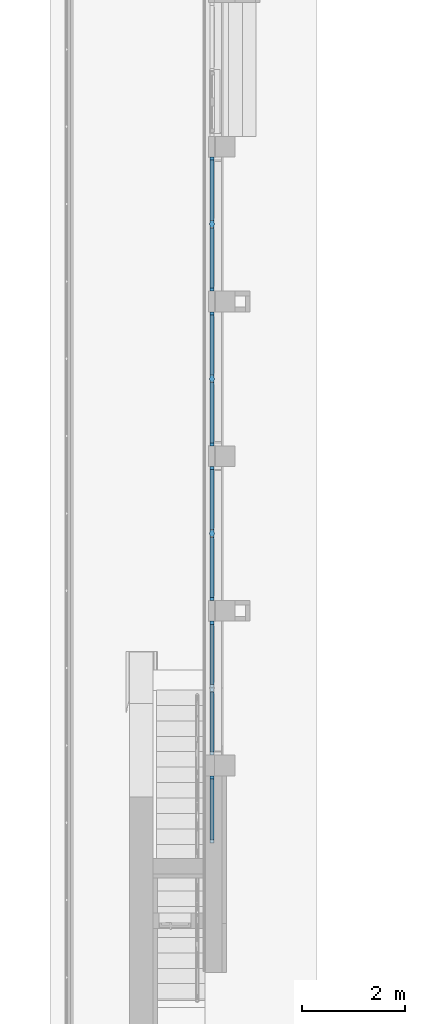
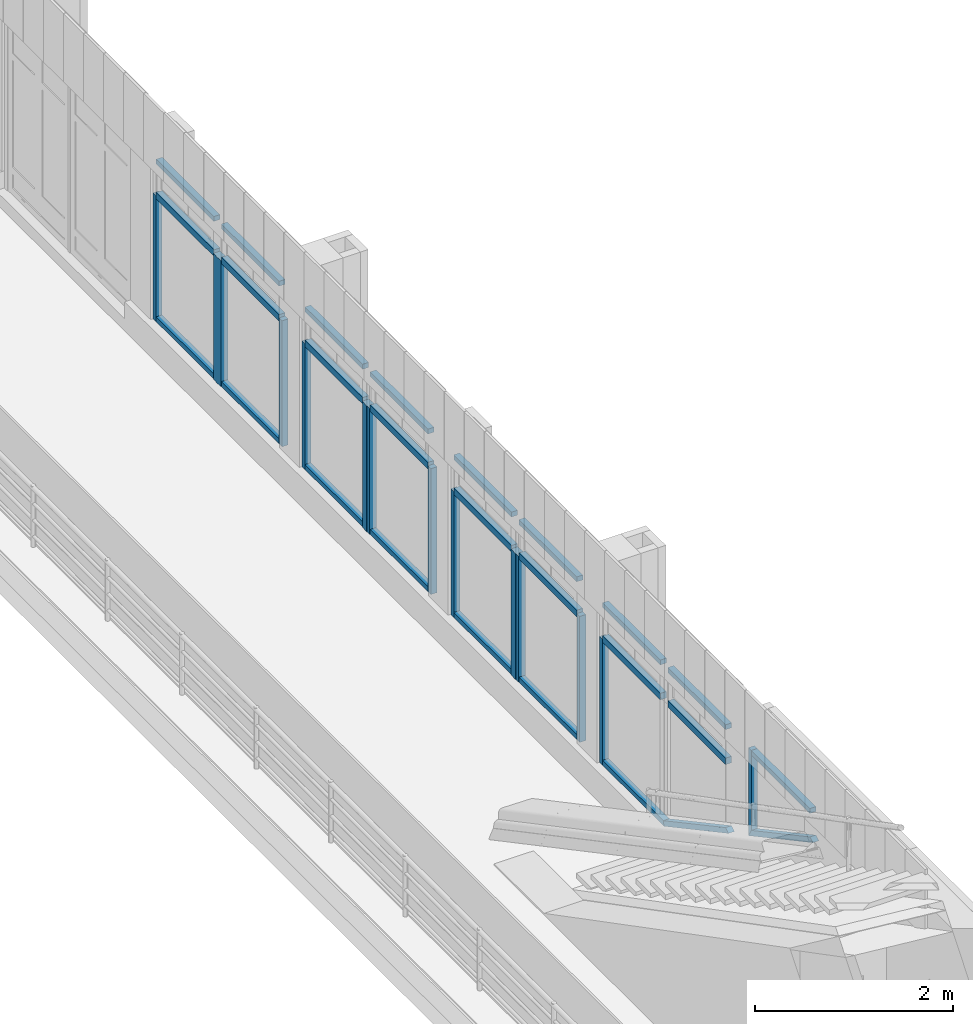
# One storey, part 2 of 16: 37 members, 5 elements without a shape of their own.
"""IFC2X3 building model written with IfcOpenShell, lengths in millimetres."""

from ifc_helpers import new_model, entity, si_unit, converted_unit, derived_unit, direction, frame, frame_2d, origin, place, context, subcontext, project, spatial, polyline, rectangle, outline, extrude, source, transform, mapped, material, type_object, type_shapes, element, aggregate, save


model = new_model("IFC2X3")

# Units and contexts
model_context = context("Model", 3, precision=0.01, world=origin(), true_north=direction((6.123031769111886e-17, 1.0)))
body_context = subcontext(model_context, "Body", "Model", "MODEL_VIEW")
ifc_project = project(units=[si_unit("LENGTHUNIT", "METRE", prefix="MILLI"), si_unit("AREAUNIT", "SQUARE_METRE"), si_unit("VOLUMEUNIT", "CUBIC_METRE"), converted_unit("PLANEANGLEUNIT", "DEGREE", entity("IfcPlaneAngleMeasure", 0.017453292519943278), si_unit("PLANEANGLEUNIT", "RADIAN"), dimensions=[0, 0, 0, 0, 0, 0, 0]), si_unit("MASSUNIT", "GRAM", prefix="KILO"), derived_unit("MASSDENSITYUNIT", [(si_unit("MASSUNIT", "GRAM", prefix="KILO"), 1), (si_unit("LENGTHUNIT", "METRE"), -3)]), derived_unit("IONCONCENTRATIONUNIT", [(si_unit("MASSUNIT", "GRAM", prefix="KILO"), 1), (si_unit("LENGTHUNIT", "METRE"), -3)]), derived_unit("MOMENTOFINERTIAUNIT", [(si_unit("LENGTHUNIT", "METRE"), 4)]), si_unit("TIMEUNIT", "SECOND"), si_unit("FREQUENCYUNIT", "HERTZ"), si_unit("THERMODYNAMICTEMPERATUREUNIT", "DEGREE_CELSIUS"), derived_unit("THERMALTRANSMITTANCEUNIT", [(si_unit("MASSUNIT", "GRAM", prefix="KILO"), 1), (si_unit("THERMODYNAMICTEMPERATUREUNIT", "KELVIN"), -1), (si_unit("TIMEUNIT", "SECOND"), -3)]), derived_unit("THERMALCONDUCTANCEUNIT", [(si_unit("MASSUNIT", "GRAM", prefix="KILO"), 1), (si_unit("THERMODYNAMICTEMPERATUREUNIT", "KELVIN"), -1), (si_unit("TIMEUNIT", "SECOND"), -3), (si_unit("LENGTHUNIT", "METRE"), 1)]), derived_unit("VOLUMETRICFLOWRATEUNIT", [(si_unit("LENGTHUNIT", "METRE", prefix="DECI"), 3), (si_unit("TIMEUNIT", "SECOND"), -1)]), derived_unit("MASSFLOWRATEUNIT", [(si_unit("MASSUNIT", "GRAM", prefix="KILO"), 1), (si_unit("TIMEUNIT", "SECOND"), -1)]), derived_unit("ROTATIONALFREQUENCYUNIT", [(si_unit("TIMEUNIT", "SECOND"), -1)]), si_unit("ELECTRICCURRENTUNIT", "AMPERE"), si_unit("ELECTRICVOLTAGEUNIT", "VOLT"), si_unit("POWERUNIT", "WATT"), si_unit("FORCEUNIT", "NEWTON", prefix="KILO"), si_unit("ILLUMINANCEUNIT", "LUX"), si_unit("LUMINOUSFLUXUNIT", "LUMEN"), si_unit("LUMINOUSINTENSITYUNIT", "CANDELA"), si_unit("ENERGYUNIT", "JOULE"), derived_unit("USERDEFINED", [(si_unit("MASSUNIT", "GRAM", prefix="KILO"), -1), (si_unit("LENGTHUNIT", "METRE"), -2), (si_unit("TIMEUNIT", "SECOND"), 3), (si_unit("LUMINOUSFLUXUNIT", "LUMEN"), 1)]), derived_unit("USERDEFINED", [(si_unit("MASSUNIT", "GRAM", prefix="KILO"), 1), (si_unit("TIMEUNIT", "SECOND"), -3), (si_unit("LENGTHUNIT", "METRE"), 3), (si_unit("ELECTRICCURRENTUNIT", "AMPERE"), -2)]), derived_unit("SOUNDPOWERUNIT", [(si_unit("MASSUNIT", "GRAM", prefix="KILO"), 1), (si_unit("TIMEUNIT", "SECOND"), -3), (si_unit("LENGTHUNIT", "METRE"), 2)]), derived_unit("SOUNDPRESSUREUNIT", [(si_unit("MASSUNIT", "GRAM", prefix="KILO"), 1), (si_unit("LENGTHUNIT", "METRE"), -1), (si_unit("TIMEUNIT", "SECOND"), -2)]), derived_unit("LINEARVELOCITYUNIT", [(si_unit("LENGTHUNIT", "METRE"), 1), (si_unit("TIMEUNIT", "SECOND"), -1)]), si_unit("PRESSUREUNIT", "PASCAL"), derived_unit("USERDEFINED", [(si_unit("MASSUNIT", "GRAM", prefix="KILO"), 1), (si_unit("LENGTHUNIT", "METRE"), -2), (si_unit("TIMEUNIT", "SECOND"), -2)]), derived_unit("LINEARFORCEUNIT", [(si_unit("MASSUNIT", "GRAM", prefix="KILO"), 1), (si_unit("TIMEUNIT", "SECOND"), -2)]), derived_unit("PLANARFORCEUNIT", [(si_unit("MASSUNIT", "GRAM", prefix="KILO"), 1), (si_unit("LENGTHUNIT", "METRE"), -1), (si_unit("TIMEUNIT", "SECOND"), -2)]), derived_unit("SPECIFICHEATCAPACITYUNIT", [(si_unit("THERMODYNAMICTEMPERATUREUNIT", "KELVIN"), -1), (si_unit("LENGTHUNIT", "METRE"), 2), (si_unit("TIMEUNIT", "SECOND"), -2)]), derived_unit("HEATFLUXDENSITYUNIT", [(si_unit("MASSUNIT", "GRAM", prefix="KILO"), 1), (si_unit("TIMEUNIT", "SECOND"), -3)]), derived_unit("HEATINGVALUEUNIT", [(si_unit("LENGTHUNIT", "METRE"), 2), (si_unit("TIMEUNIT", "SECOND"), -2)]), derived_unit("VAPORPERMEABILITYUNIT", [(si_unit("LENGTHUNIT", "METRE"), -1), (si_unit("TIMEUNIT", "SECOND"), 1)]), derived_unit("DYNAMICVISCOSITYUNIT", [(si_unit("MASSUNIT", "GRAM", prefix="KILO"), 1), (si_unit("TIMEUNIT", "SECOND"), -1), (si_unit("LENGTHUNIT", "METRE"), -1)]), derived_unit("THERMALEXPANSIONCOEFFICIENTUNIT", [(si_unit("THERMODYNAMICTEMPERATUREUNIT", "KELVIN"), -1)]), derived_unit("MODULUSOFELASTICITYUNIT", [(si_unit("MASSUNIT", "GRAM", prefix="KILO"), 1), (si_unit("LENGTHUNIT", "METRE"), -1), (si_unit("TIMEUNIT", "SECOND"), -2)]), derived_unit("ISOTHERMALMOISTURECAPACITYUNIT", [(si_unit("MASSUNIT", "GRAM", prefix="KILO"), -1), (si_unit("LENGTHUNIT", "METRE"), 3)]), derived_unit("MOISTUREDIFFUSIVITYUNIT", [(si_unit("TIMEUNIT", "SECOND"), -1), (si_unit("LENGTHUNIT", "METRE"), 2)]), derived_unit("MASSPERLENGTHUNIT", [(si_unit("MASSUNIT", "GRAM", prefix="KILO"), 1), (si_unit("LENGTHUNIT", "METRE"), -1)]), derived_unit("THERMALRESISTANCEUNIT", [(si_unit("MASSUNIT", "GRAM", prefix="KILO"), -1), (si_unit("TIMEUNIT", "SECOND"), 3), (si_unit("THERMODYNAMICTEMPERATUREUNIT", "KELVIN"), 1)]), derived_unit("ACCELERATIONUNIT", [(si_unit("LENGTHUNIT", "METRE"), 1), (si_unit("TIMEUNIT", "SECOND"), -2)]), derived_unit("ANGULARVELOCITYUNIT", [(si_unit("TIMEUNIT", "SECOND"), -1), (si_unit("PLANEANGLEUNIT", "RADIAN"), 1)]), derived_unit("LINEARSTIFFNESSUNIT", [(si_unit("MASSUNIT", "GRAM", prefix="KILO"), 1), (si_unit("TIMEUNIT", "SECOND"), -2)]), derived_unit("WARPINGCONSTANTUNIT", [(si_unit("LENGTHUNIT", "METRE"), 6)]), derived_unit("LINEARMOMENTUNIT", [(si_unit("MASSUNIT", "GRAM", prefix="KILO"), 1), (si_unit("LENGTHUNIT", "METRE"), 1), (si_unit("TIMEUNIT", "SECOND"), -2)]), derived_unit("TORQUEUNIT", [(si_unit("MASSUNIT", "GRAM", prefix="KILO"), 1), (si_unit("LENGTHUNIT", "METRE"), 2), (si_unit("TIMEUNIT", "SECOND"), -2)])], contexts=[model_context])

# Site, building, storey
site_placement = place(None, origin())
site = spatial("IfcSite", under=ifc_project, at=site_placement, Name="Default", CompositionType="ELEMENT")
building_placement = place(site_placement, origin())
building = spatial("IfcBuilding", under=site, at=building_placement, Name="Eesti Rahvusraamatukogu hoone renoveerimise projekteerimistööd", CompositionType="ELEMENT")
storey_placement = place(building_placement, frame((0.0, 0.0, 8250.000000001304)))
storey = spatial("IfcBuildingStorey", under=building, at=storey_placement, Name="3. korrus", CompositionType="ELEMENT", Elevation=8250.000000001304)

# Curtain wall, members
curtain_wall_type_1 = type_object("IfcCurtainWallType", Name="Curtain Wall:A-17", PredefinedType="NOTDEFINED")
curtain_wall_1_placement = place(storey_placement, frame((0.0, 0.0, -8250.000000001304)))
curtain_wall_1 = element("IfcCurtainWall", 1, at=curtain_wall_1_placement, inside=storey, type_object=curtain_wall_type_1, Name="Curtain Wall:A-17", ObjectType="Curtain Wall:A-17")
ifc_material = material(Name="LUMION_dark steel window frames")
member_type_1 = type_object("IfcMemberType", Name="Rectangular Mullion:NEW 80x70mm", PredefinedType="MULLION", material=ifc_material)
shared_shape_1 = source(origin(), body_context, "Body", "SweptSolid", [
    extrude(rectangle(XDim=80.0, YDim=70.0, at=frame_2d((0.0, -3.552713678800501e-15), x_axis=(1.0, 0.0))), frame((0.0, 0.0, -1165.0), z_axis=(0.0, 0.0, 1.0), x_axis=(-1.0, 0.0, 0.0)), (0.0, 0.0, 1.0), 1165.000000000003),
])
type_shapes(member_type_1, [shared_shape_1])
member_1_placement = place(curtain_wall_1_placement, frame((-33635.0, 12650.0, 10400.000000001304), z_axis=(0.0, -1.0, 0.0), x_axis=(0.0, 0.0, 1.0)))
member_1 = element("IfcMember", 2, at=member_1_placement, type_object=member_type_1, material=ifc_material, Name="Rectangular Mullion:NEW 80x70mm", ObjectType="Rectangular Mullion:NEW 80x70mm", context=body_context, shape_type="MappedRepresentation", body=[
    mapped(shared_shape_1, transform((0.0, 0.0, 0.0), scale=1.0)),
])
member_2_placement = place(curtain_wall_1_placement, frame((-33635.0, 13965.0, 10400.000000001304), z_axis=(0.0, -1.0, 0.0), x_axis=(0.0, 0.0, 1.0)))
member_2 = element("IfcMember", 3, at=member_2_placement, type_object=member_type_1, material=ifc_material, Name="Rectangular Mullion:NEW 80x70mm", ObjectType="Rectangular Mullion:NEW 80x70mm", context=body_context, shape_type="MappedRepresentation", body=[
    mapped(shared_shape_1, transform((0.0, 0.0, 0.0), scale=1.0)),
])
member_type_2 = type_object("IfcMemberType", Name="Rectangular Mullion:NEW 60x70mm", PredefinedType="MULLION", material=ifc_material)
shared_shape_2 = source(origin(), body_context, "Body", "SweptSolid", [
    extrude(rectangle(XDim=60.0, YDim=70.0, at=frame_2d((0.0, -3.552713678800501e-15), x_axis=(1.0, 0.0))), frame((-30.0, 0.0, -1550.0), z_axis=(0.0, 0.0, 1.0), x_axis=(-1.0, 0.0, 0.0)), (0.0, 0.0, 1.0), 1550.000000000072),
])
type_shapes(member_type_2, [shared_shape_2])
member_3_placement = place(curtain_wall_1_placement, frame((-33635.0, 15190.0, 10400.000000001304), z_axis=(0.0, 0.0, 1.0), x_axis=(0.0, 1.0, 0.0)))
member_3 = element("IfcMember", 4, at=member_3_placement, type_object=member_type_2, material=ifc_material, Name="Rectangular Mullion:NEW 60x70mm", ObjectType="Rectangular Mullion:NEW 60x70mm", context=body_context, shape_type="MappedRepresentation", body=[
    mapped(shared_shape_2, transform((0.0, 0.0, 0.0), scale=1.0)),
])
member_type_3 = type_object("IfcMemberType", Name="Rectangular Mullion:NEW 60x70mm", PredefinedType="MULLION", material=ifc_material)
shared_shape_3 = source(origin(), body_context, "Body", "SweptSolid", [
    extrude(outline(polyline([(-616.2182362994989, -30.0), (623.7817637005, -30.0), (608.654708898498, 30.0), (-616.2182362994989, 30.0), (-616.2182362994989, -30.0)])), frame((-30.0, -35.0, -616.2182362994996), z_axis=(0.0, 1.0, 0.0), x_axis=(0.0, 0.0, -1.0)), (0.0, 0.0, 1.0), 69.99999999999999),
])
type_shapes(member_type_3, [shared_shape_3])
member_4_placement = place(curtain_wall_1_placement, frame((-33635.0, 15130.0, 8850.000000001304), z_axis=(0.0, 1.0, 0.0), x_axis=(0.0, 0.0, -1.0)))
member_4 = element("IfcMember", 5, at=member_4_placement, type_object=member_type_3, material=ifc_material, Name="Rectangular Mullion:NEW 60x70mm", ObjectType="Rectangular Mullion:NEW 60x70mm", context=body_context, shape_type="MappedRepresentation", body=[
    mapped(shared_shape_3, transform((0.0, 0.0, 0.0), scale=1.0)),
])
member_type_4 = type_object("IfcMemberType", Name="Rectangular Mullion:NEW 60x70mm", PredefinedType="MULLION", material=ifc_material)
shared_shape_4 = source(origin(), body_context, "Body", "SweptSolid", [
    extrude(outline(polyline([(-733.0635054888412, -30.0), (743.4188005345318, -30.0), (707.5811556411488, 30.0), (-717.9364506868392, 30.0), (-733.0635054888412, -30.0)])), frame((-30.0, -35.0, -733.0635054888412), z_axis=(0.0, 1.0, 0.0), x_axis=(0.0, 0.0, -1.0)), (0.0, 0.0, 1.0), 69.99999999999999),
])
type_shapes(member_type_4, [shared_shape_4])
member_5_placement = place(curtain_wall_1_placement, frame((-33635.0, 13890.0, 8850.000000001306), z_axis=(0.0, 0.880471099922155, -0.4740998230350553), x_axis=(0.0, -0.4740998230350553, -0.880471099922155)))
member_5 = element("IfcMember", 6, at=member_5_placement, type_object=member_type_4, material=ifc_material, Name="Rectangular Mullion:NEW 60x70mm", ObjectType="Rectangular Mullion:NEW 60x70mm", context=body_context, shape_type="MappedRepresentation", body=[
    mapped(shared_shape_4, transform((0.0, 0.0, 0.0), scale=1.0)),
])
member_type_5 = type_object("IfcMemberType", Name="Rectangular Mullion:NEW 60x70mm", PredefinedType="MULLION", material=ifc_material)
shared_shape_5 = source(origin(), body_context, "Body", "SweptSolid", [
    extrude(rectangle(XDim=60.0, YDim=70.0, at=frame_2d((0.0, 3.552713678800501e-15), x_axis=(1.0, 0.0))), frame((-30.0, 0.0, -1165.0), z_axis=(0.0, 0.0, 1.0), x_axis=(-1.0, 0.0, 0.0)), (0.0, 0.0, 1.0), 1164.999999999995),
])
type_shapes(member_type_5, [shared_shape_5])
member_6_placement = place(curtain_wall_1_placement, frame((-33635.0, 13965.0, 10850.000000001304), z_axis=(0.0, -1.0, 0.0), x_axis=(0.0, 0.0, 1.0)))
member_6 = element("IfcMember", 7, at=member_6_placement, type_object=member_type_5, material=ifc_material, Name="Rectangular Mullion:NEW 60x70mm", ObjectType="Rectangular Mullion:NEW 60x70mm", context=body_context, shape_type="MappedRepresentation", body=[
    mapped(shared_shape_5, transform((0.0, 0.0, 0.0), scale=1.0)),
])
member_7_placement = place(curtain_wall_1_placement, frame((-33635.0, 12650.0, 10850.000000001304), z_axis=(0.0, -1.0, 0.0), x_axis=(0.0, 0.0, 1.0)))
member_7 = element("IfcMember", 8, at=member_7_placement, type_object=member_type_5, material=ifc_material, Name="Rectangular Mullion:NEW 60x70mm", ObjectType="Rectangular Mullion:NEW 60x70mm", context=body_context, shape_type="MappedRepresentation", body=[
    mapped(shared_shape_5, transform((0.0, 0.0, 0.0), scale=1.0)),
])
aggregate(curtain_wall_1, [member_1, member_2, member_3, member_4, member_5, member_6, member_7])

curtain_wall_type_2 = type_object("IfcCurtainWallType", Name="Curtain Wall:A-18", PredefinedType="NOTDEFINED")
curtain_wall_2_placement = place(storey_placement, frame((0.0, 0.0, -8250.000000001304)))
curtain_wall_2 = element("IfcCurtainWall", 9, at=curtain_wall_2_placement, inside=storey, type_object=curtain_wall_type_2, Name="Curtain Wall:A-18", ObjectType="Curtain Wall:A-18")
member_type_6 = type_object("IfcMemberType", Name="Rectangular Mullion:NEW 60x70mm", PredefinedType="MULLION", material=ifc_material)
shared_shape_6 = source(origin(), body_context, "Body", "SweptSolid", [
    extrude(outline(polyline([(-517.1944349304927, -30.0), (567.4209496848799, -30.0), (466.96792017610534, 30.0), (-517.1944349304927, 30.0), (-517.1944349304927, -30.0)])), frame((-30.0, -35.0, -517.1944349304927), z_axis=(0.0, 1.0, 0.0), x_axis=(0.0, 0.0, -1.0)), (0.0, 0.0, 1.0), 69.99999999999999),
])
type_shapes(member_type_6, [shared_shape_6])
member_8_placement = place(curtain_wall_2_placement, frame((-33635.0, 12190.0, 10850.000000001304), z_axis=(0.0, 0.0, 1.0), x_axis=(0.0, 1.0, 0.0)))
member_8 = element("IfcMember", 10, at=member_8_placement, type_object=member_type_6, material=ifc_material, Name="Rectangular Mullion:NEW 60x70mm", ObjectType="Rectangular Mullion:NEW 60x70mm", context=body_context, shape_type="MappedRepresentation", body=[
    mapped(shared_shape_6, transform((0.0, 0.0, 0.0), scale=1.0)),
])
member_type_7 = type_object("IfcMemberType", Name="Rectangular Mullion:NEW 60x70mm", PredefinedType="MULLION", material=ifc_material)
shared_shape_7 = source(origin(), body_context, "Body", "SweptSolid", [
    extrude(rectangle(XDim=60.0, YDim=70.0, at=frame_2d((0.0, 3.552713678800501e-15), x_axis=(1.0, 0.0))), frame((-30.0, 0.0, -1180.0), z_axis=(0.0, 0.0, 1.0), x_axis=(-1.0, 0.0, 0.0)), (0.0, 0.0, 1.0), 1179.999999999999),
])
type_shapes(member_type_7, [shared_shape_7])
member_9_placement = place(curtain_wall_2_placement, frame((-33635.0, 10950.0, 10850.000000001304), z_axis=(0.0, -1.0, 0.0), x_axis=(0.0, 0.0, 1.0)))
member_9 = element("IfcMember", 11, at=member_9_placement, type_object=member_type_7, material=ifc_material, Name="Rectangular Mullion:NEW 60x70mm", ObjectType="Rectangular Mullion:NEW 60x70mm", context=body_context, shape_type="MappedRepresentation", body=[
    mapped(shared_shape_7, transform((0.0, 0.0, 0.0), scale=1.0)),
])
member_type_8 = type_object("IfcMemberType", Name="Rectangular Mullion:NEW 60x70mm", PredefinedType="MULLION", material=ifc_material)
shared_shape_8 = source(origin(), body_context, "Body", "SweptSolid", [
    extrude(outline(polyline([(-754.3949991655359, -30.0), (722.0873068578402, -30.0), (686.2496619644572, 30.0), (-653.9419696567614, 30.0), (-754.3949991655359, -30.0)])), frame((-30.0, -35.0, -754.3949991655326), z_axis=(0.0, 1.0, 0.0), x_axis=(0.0, 0.0, -1.0)), (0.0, 0.0, 1.0), 70.00000000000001),
])
type_shapes(member_type_8, [shared_shape_8])
member_10_placement = place(curtain_wall_2_placement, frame((-33635.0, 12190.0, 9765.384615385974), z_axis=(0.0, 0.8804710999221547, -0.4740998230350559), x_axis=(0.0, -0.4740998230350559, -0.8804710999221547)))
member_10 = element("IfcMember", 12, at=member_10_placement, type_object=member_type_8, material=ifc_material, Name="Rectangular Mullion:NEW 60x70mm", ObjectType="Rectangular Mullion:NEW 60x70mm", context=body_context, shape_type="MappedRepresentation", body=[
    mapped(shared_shape_8, transform((0.0, 0.0, 0.0), scale=1.0)),
])
aggregate(curtain_wall_2, [member_8, member_9, member_10])

curtain_wall_type_3 = type_object("IfcCurtainWallType", Name="Curtain Wall:A-16", PredefinedType="NOTDEFINED")
curtain_wall_3_placement = place(storey_placement, frame((0.0, 0.0, -8250.000000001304)))
curtain_wall_3 = element("IfcCurtainWall", 13, at=curtain_wall_3_placement, inside=storey, type_object=curtain_wall_type_3, Name="Curtain Wall:A-16", ObjectType="Curtain Wall:A-16")
member_type_9 = type_object("IfcMemberType", Name="Rectangular Mullion:NEW 80x70mm", PredefinedType="MULLION", material=ifc_material)
shared_shape_9 = source(origin(), body_context, "Body", "SweptSolid", [
    extrude(rectangle(XDim=80.0, YDim=70.0, at=frame_2d((0.0, -3.552713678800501e-15), x_axis=(1.0, 0.0))), frame((0.0, 0.0, -1165.0), z_axis=(0.0, 0.0, 1.0), x_axis=(-1.0, 0.0, 0.0)), (0.0, 0.0, 1.0), 1165.000000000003),
])
type_shapes(member_type_9, [shared_shape_9])
member_11_placement = place(curtain_wall_3_placement, frame((-33635.0, 21650.0, 10400.000000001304), z_axis=(0.0, -1.0, 0.0), x_axis=(0.0, 0.0, 1.0)))
member_11 = element("IfcMember", 14, at=member_11_placement, type_object=member_type_9, material=ifc_material, Name="Rectangular Mullion:NEW 80x70mm", ObjectType="Rectangular Mullion:NEW 80x70mm", context=body_context, shape_type="MappedRepresentation", body=[
    mapped(shared_shape_9, transform((0.0, 0.0, 0.0), scale=1.0)),
])
member_12_placement = place(curtain_wall_3_placement, frame((-33635.0, 22965.0, 10400.000000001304), z_axis=(0.0, -1.0, 0.0), x_axis=(0.0, 0.0, 1.0)))
member_12 = element("IfcMember", 15, at=member_12_placement, type_object=member_type_9, material=ifc_material, Name="Rectangular Mullion:NEW 80x70mm", ObjectType="Rectangular Mullion:NEW 80x70mm", context=body_context, shape_type="MappedRepresentation", body=[
    mapped(shared_shape_9, transform((0.0, 0.0, 0.0), scale=1.0)),
])

curtain_wall_4_placement = place(storey_placement, frame((0.0, 0.0, -8250.000000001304)))
curtain_wall_4 = element("IfcCurtainWall", 16, at=curtain_wall_4_placement, inside=storey, type_object=curtain_wall_type_3, Name="Curtain Wall:A-16", ObjectType="Curtain Wall:A-16")
member_13_placement = place(curtain_wall_4_placement, frame((-33635.0, 18650.0, 10400.000000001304), z_axis=(0.0, -1.0, 0.0), x_axis=(0.0, 0.0, 1.0)))
member_13 = element("IfcMember", 17, at=member_13_placement, type_object=member_type_9, material=ifc_material, Name="Rectangular Mullion:NEW 80x70mm", ObjectType="Rectangular Mullion:NEW 80x70mm", context=body_context, shape_type="MappedRepresentation", body=[
    mapped(shared_shape_9, transform((0.0, 0.0, 0.0), scale=1.0)),
])
member_14_placement = place(curtain_wall_4_placement, frame((-33635.0, 19965.0, 10400.000000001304), z_axis=(0.0, -1.0, 0.0), x_axis=(0.0, 0.0, 1.0)))
member_14 = element("IfcMember", 18, at=member_14_placement, type_object=member_type_9, material=ifc_material, Name="Rectangular Mullion:NEW 80x70mm", ObjectType="Rectangular Mullion:NEW 80x70mm", context=body_context, shape_type="MappedRepresentation", body=[
    mapped(shared_shape_9, transform((0.0, 0.0, 0.0), scale=1.0)),
])

curtain_wall_5_placement = place(storey_placement, frame((0.0, 0.0, -8250.000000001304)))
curtain_wall_5 = element("IfcCurtainWall", 19, at=curtain_wall_5_placement, inside=storey, type_object=curtain_wall_type_3, Name="Curtain Wall:A-16", ObjectType="Curtain Wall:A-16")
member_15_placement = place(curtain_wall_5_placement, frame((-33635.0, 15650.0, 10400.000000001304), z_axis=(0.0, -1.0, 0.0), x_axis=(0.0, 0.0, 1.0)))
member_15 = element("IfcMember", 20, at=member_15_placement, type_object=member_type_9, material=ifc_material, Name="Rectangular Mullion:NEW 80x70mm", ObjectType="Rectangular Mullion:NEW 80x70mm", context=body_context, shape_type="MappedRepresentation", body=[
    mapped(shared_shape_9, transform((0.0, 0.0, 0.0), scale=1.0)),
])
member_16_placement = place(curtain_wall_5_placement, frame((-33635.0, 16965.0, 10400.000000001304), z_axis=(0.0, -1.0, 0.0), x_axis=(0.0, 0.0, 1.0)))
member_16 = element("IfcMember", 21, at=member_16_placement, type_object=member_type_9, material=ifc_material, Name="Rectangular Mullion:NEW 80x70mm", ObjectType="Rectangular Mullion:NEW 80x70mm", context=body_context, shape_type="MappedRepresentation", body=[
    mapped(shared_shape_9, transform((0.0, 0.0, 0.0), scale=1.0)),
])

# Member
member_type_10 = type_object("IfcMemberType", Name="Rectangular Mullion:NEW 60x70mm", PredefinedType="MULLION", material=ifc_material)
shared_shape_10 = source(origin(), body_context, "Body", "SweptSolid", [
    extrude(rectangle(XDim=60.0, YDim=70.0, at=frame_2d((0.0, 3.552713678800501e-15), x_axis=(1.0, 0.0))), frame((-30.0, 0.0, -1550.0), z_axis=(0.0, 0.0, 1.0), x_axis=(-1.0, 0.0, 0.0)), (0.0, 0.0, 1.0), 1550.000000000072),
])
type_shapes(member_type_10, [shared_shape_10])
member_17_placement = place(curtain_wall_3_placement, frame((-33635.0, 24190.0, 10400.000000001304), z_axis=(0.0, 0.0, 1.0), x_axis=(0.0, 1.0, 0.0)))
member_17 = element("IfcMember", 22, at=member_17_placement, type_object=member_type_10, material=ifc_material, Name="Rectangular Mullion:NEW 60x70mm", ObjectType="Rectangular Mullion:NEW 60x70mm", context=body_context, shape_type="MappedRepresentation", body=[
    mapped(shared_shape_10, transform((0.0, 0.0, 0.0), scale=1.0)),
])

member_18_placement = place(curtain_wall_4_placement, frame((-33635.0, 21190.0, 10400.000000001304), z_axis=(0.0, 0.0, 1.0), x_axis=(0.0, 1.0, 0.0)))
member_18 = element("IfcMember", 23, at=member_18_placement, type_object=member_type_10, material=ifc_material, Name="Rectangular Mullion:NEW 60x70mm", ObjectType="Rectangular Mullion:NEW 60x70mm", context=body_context, shape_type="MappedRepresentation", body=[
    mapped(shared_shape_10, transform((0.0, 0.0, 0.0), scale=1.0)),
])

member_19_placement = place(curtain_wall_5_placement, frame((-33635.0, 18190.0, 10400.000000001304), z_axis=(0.0, 0.0, 1.0), x_axis=(0.0, 1.0, 0.0)))
member_19 = element("IfcMember", 24, at=member_19_placement, type_object=member_type_10, material=ifc_material, Name="Rectangular Mullion:NEW 60x70mm", ObjectType="Rectangular Mullion:NEW 60x70mm", context=body_context, shape_type="MappedRepresentation", body=[
    mapped(shared_shape_10, transform((0.0, 0.0, 0.0), scale=1.0)),
])

member_type_11 = type_object("IfcMemberType", Name="Rectangular Mullion:NEW 60x70mm", PredefinedType="MULLION", material=ifc_material)
shared_shape_11 = source(origin(), body_context, "Body", "SweptSolid", [
    extrude(rectangle(XDim=60.0, YDim=70.0, at=frame_2d((0.0, 3.552713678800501e-15), x_axis=(1.0, 0.0))), frame((-30.0, 0.0, -1165.0), z_axis=(0.0, 0.0, 1.0), x_axis=(-1.0, 0.0, 0.0)), (0.0, 0.0, 1.0), 1164.9999999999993),
])
type_shapes(member_type_11, [shared_shape_11])
member_20_placement = place(curtain_wall_3_placement, frame((-33635.0, 22965.0, 10850.000000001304), z_axis=(0.0, -1.0, 0.0), x_axis=(0.0, 0.0, 1.0)))
member_20 = element("IfcMember", 25, at=member_20_placement, type_object=member_type_11, material=ifc_material, Name="Rectangular Mullion:NEW 60x70mm", ObjectType="Rectangular Mullion:NEW 60x70mm", context=body_context, shape_type="MappedRepresentation", body=[
    mapped(shared_shape_11, transform((0.0, 0.0, 0.0), scale=1.0)),
])

member_21_placement = place(curtain_wall_3_placement, frame((-33635.0, 21650.0, 10850.000000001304), z_axis=(0.0, -1.0, 0.0), x_axis=(0.0, 0.0, 1.0)))
member_21 = element("IfcMember", 26, at=member_21_placement, type_object=member_type_11, material=ifc_material, Name="Rectangular Mullion:NEW 60x70mm", ObjectType="Rectangular Mullion:NEW 60x70mm", context=body_context, shape_type="MappedRepresentation", body=[
    mapped(shared_shape_11, transform((0.0, 0.0, 0.0), scale=1.0)),
])

member_22_placement = place(curtain_wall_4_placement, frame((-33635.0, 19965.0, 10850.000000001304), z_axis=(0.0, -1.0, 0.0), x_axis=(0.0, 0.0, 1.0)))
member_22 = element("IfcMember", 27, at=member_22_placement, type_object=member_type_11, material=ifc_material, Name="Rectangular Mullion:NEW 60x70mm", ObjectType="Rectangular Mullion:NEW 60x70mm", context=body_context, shape_type="MappedRepresentation", body=[
    mapped(shared_shape_11, transform((0.0, 0.0, 0.0), scale=1.0)),
])

member_23_placement = place(curtain_wall_4_placement, frame((-33635.0, 18650.0, 10850.000000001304), z_axis=(0.0, -1.0, 0.0), x_axis=(0.0, 0.0, 1.0)))
member_23 = element("IfcMember", 28, at=member_23_placement, type_object=member_type_11, material=ifc_material, Name="Rectangular Mullion:NEW 60x70mm", ObjectType="Rectangular Mullion:NEW 60x70mm", context=body_context, shape_type="MappedRepresentation", body=[
    mapped(shared_shape_11, transform((0.0, 0.0, 0.0), scale=1.0)),
])

member_24_placement = place(curtain_wall_5_placement, frame((-33635.0, 16965.0, 10850.000000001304), z_axis=(0.0, -1.0, 0.0), x_axis=(0.0, 0.0, 1.0)))
member_24 = element("IfcMember", 29, at=member_24_placement, type_object=member_type_11, material=ifc_material, Name="Rectangular Mullion:NEW 60x70mm", ObjectType="Rectangular Mullion:NEW 60x70mm", context=body_context, shape_type="MappedRepresentation", body=[
    mapped(shared_shape_11, transform((0.0, 0.0, 0.0), scale=1.0)),
])

member_25_placement = place(curtain_wall_5_placement, frame((-33635.0, 15650.0, 10850.000000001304), z_axis=(0.0, -1.0, 0.0), x_axis=(0.0, 0.0, 1.0)))
member_25 = element("IfcMember", 30, at=member_25_placement, type_object=member_type_11, material=ifc_material, Name="Rectangular Mullion:NEW 60x70mm", ObjectType="Rectangular Mullion:NEW 60x70mm", context=body_context, shape_type="MappedRepresentation", body=[
    mapped(shared_shape_11, transform((0.0, 0.0, 0.0), scale=1.0)),
])

member_type_12 = type_object("IfcMemberType", Name="Rectangular Mullion:NEW 60x70mm", PredefinedType="MULLION", material=ifc_material)
shared_shape_12 = source(origin(), body_context, "Body", "SweptSolid", [
    extrude(rectangle(XDim=60.0, YDim=70.0, at=frame_2d((0.0, 3.552713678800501e-15), x_axis=(1.0, 0.0))), frame((-30.0, 0.0, -1550.0), z_axis=(0.0, 0.0, 1.0), x_axis=(-1.0, 0.0, 0.0)), (0.0, 0.0, 1.0), 1550.000000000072),
])
type_shapes(member_type_12, [shared_shape_12])
member_26_placement = place(curtain_wall_3_placement, frame((-33635.0, 21590.0, 8850.000000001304), z_axis=(0.0, 0.0, -1.0), x_axis=(0.0, -1.0, 0.0)))
member_26 = element("IfcMember", 31, at=member_26_placement, type_object=member_type_12, material=ifc_material, Name="Rectangular Mullion:NEW 60x70mm", ObjectType="Rectangular Mullion:NEW 60x70mm", context=body_context, shape_type="MappedRepresentation", body=[
    mapped(shared_shape_12, transform((0.0, 0.0, 0.0), scale=1.0)),
])

member_27_placement = place(curtain_wall_4_placement, frame((-33635.0, 18590.0, 8850.000000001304), z_axis=(0.0, 0.0, -1.0), x_axis=(0.0, -1.0, 0.0)))
member_27 = element("IfcMember", 32, at=member_27_placement, type_object=member_type_12, material=ifc_material, Name="Rectangular Mullion:NEW 60x70mm", ObjectType="Rectangular Mullion:NEW 60x70mm", context=body_context, shape_type="MappedRepresentation", body=[
    mapped(shared_shape_12, transform((0.0, 0.0, 0.0), scale=1.0)),
])

member_28_placement = place(curtain_wall_5_placement, frame((-33635.0, 15590.0, 8850.000000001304), z_axis=(0.0, 0.0, -1.0), x_axis=(0.0, -1.0, 0.0)))
member_28 = element("IfcMember", 33, at=member_28_placement, type_object=member_type_12, material=ifc_material, Name="Rectangular Mullion:NEW 60x70mm", ObjectType="Rectangular Mullion:NEW 60x70mm", context=body_context, shape_type="MappedRepresentation", body=[
    mapped(shared_shape_12, transform((0.0, 0.0, 0.0), scale=1.0)),
])

member_type_13 = type_object("IfcMemberType", Name="Rectangular Mullion:NEW 60x70mm", PredefinedType="MULLION", material=ifc_material)
shared_shape_13 = source(origin(), body_context, "Body", "SweptSolid", [
    extrude(rectangle(XDim=60.0, YDim=70.0, at=frame_2d((0.0, 3.552713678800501e-15), x_axis=(1.0, 0.0))), frame((-30.0, 0.0, -1165.0), z_axis=(0.0, 0.0, 1.0), x_axis=(-1.0, 0.0, 0.0)), (0.0, 0.0, 1.0), 1165.0000000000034),
])
type_shapes(member_type_13, [shared_shape_13])
member_29_placement = place(curtain_wall_3_placement, frame((-33635.0, 22815.0, 8850.000000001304), z_axis=(0.0, 1.0, 0.0), x_axis=(0.0, 0.0, -1.0)))
member_29 = element("IfcMember", 34, at=member_29_placement, type_object=member_type_13, material=ifc_material, Name="Rectangular Mullion:NEW 60x70mm", ObjectType="Rectangular Mullion:NEW 60x70mm", context=body_context, shape_type="MappedRepresentation", body=[
    mapped(shared_shape_13, transform((0.0, 0.0, 0.0), scale=1.0)),
])

member_30_placement = place(curtain_wall_3_placement, frame((-33635.0, 24130.0, 8850.000000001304), z_axis=(0.0, 1.0, 0.0), x_axis=(0.0, 0.0, -1.0)))
member_30 = element("IfcMember", 35, at=member_30_placement, type_object=member_type_13, material=ifc_material, Name="Rectangular Mullion:NEW 60x70mm", ObjectType="Rectangular Mullion:NEW 60x70mm", context=body_context, shape_type="MappedRepresentation", body=[
    mapped(shared_shape_13, transform((0.0, 0.0, 0.0), scale=1.0)),
])

member_31_placement = place(curtain_wall_4_placement, frame((-33635.0, 19815.0, 8850.000000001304), z_axis=(0.0, 1.0, 0.0), x_axis=(0.0, 0.0, -1.0)))
member_31 = element("IfcMember", 36, at=member_31_placement, type_object=member_type_13, material=ifc_material, Name="Rectangular Mullion:NEW 60x70mm", ObjectType="Rectangular Mullion:NEW 60x70mm", context=body_context, shape_type="MappedRepresentation", body=[
    mapped(shared_shape_13, transform((0.0, 0.0, 0.0), scale=1.0)),
])

member_32_placement = place(curtain_wall_4_placement, frame((-33635.0, 21130.0, 8850.000000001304), z_axis=(0.0, 1.0, 0.0), x_axis=(0.0, 0.0, -1.0)))
member_32 = element("IfcMember", 37, at=member_32_placement, type_object=member_type_13, material=ifc_material, Name="Rectangular Mullion:NEW 60x70mm", ObjectType="Rectangular Mullion:NEW 60x70mm", context=body_context, shape_type="MappedRepresentation", body=[
    mapped(shared_shape_13, transform((0.0, 0.0, 0.0), scale=1.0)),
])

member_33_placement = place(curtain_wall_5_placement, frame((-33635.0, 16815.0, 8850.000000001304), z_axis=(0.0, 1.0, 0.0), x_axis=(0.0, 0.0, -1.0)))
member_33 = element("IfcMember", 38, at=member_33_placement, type_object=member_type_13, material=ifc_material, Name="Rectangular Mullion:NEW 60x70mm", ObjectType="Rectangular Mullion:NEW 60x70mm", context=body_context, shape_type="MappedRepresentation", body=[
    mapped(shared_shape_13, transform((0.0, 0.0, 0.0), scale=1.0)),
])

member_34_placement = place(curtain_wall_5_placement, frame((-33635.0, 18130.0, 8850.000000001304), z_axis=(0.0, 1.0, 0.0), x_axis=(0.0, 0.0, -1.0)))
member_34 = element("IfcMember", 39, at=member_34_placement, type_object=member_type_13, material=ifc_material, Name="Rectangular Mullion:NEW 60x70mm", ObjectType="Rectangular Mullion:NEW 60x70mm", context=body_context, shape_type="MappedRepresentation", body=[
    mapped(shared_shape_13, transform((0.0, 0.0, 0.0), scale=1.0)),
])

member_type_14 = type_object("IfcMemberType", Name="Rectangular Mullion:NEW 150x90mm", PredefinedType="MULLION", material=ifc_material)
shared_shape_14 = source(origin(), body_context, "Body", "SweptSolid", [
    extrude(outline(polyline([(20.0, -40.0), (75.0, -40.0), (75.0, 40.0), (20.0, 40.0), (20.0, 45.0), (-20.0, 45.0), (-20.0, 40.0), (-75.0, 40.0), (-75.0, -40.0), (-20.0, -40.0), (-20.0, -45.0), (20.0, -45.0), (20.0, -40.0)])), frame((0.0, 0.0, -1550.0), z_axis=(0.0, 0.0, 1.0), x_axis=(-1.0, 0.0, 0.0)), (0.0, 0.0, 1.0), 1550.000000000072),
])
type_shapes(member_type_14, [shared_shape_14])
member_35_placement = place(curtain_wall_3_placement, frame((-33635.0, 22890.0, 8850.000000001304), z_axis=(0.0, 0.0, -1.0), x_axis=(0.0, -1.0, 0.0)))
member_35 = element("IfcMember", 40, at=member_35_placement, type_object=member_type_14, material=ifc_material, Name="Rectangular Mullion:NEW 150x90mm", ObjectType="Rectangular Mullion:NEW 150x90mm", context=body_context, shape_type="MappedRepresentation", body=[
    mapped(shared_shape_14, transform((0.0, 0.0, 0.0), scale=1.0)),
])

aggregate(curtain_wall_3, [member_11, member_12, member_17, member_20, member_21, member_26, member_29, member_30, member_35])

member_36_placement = place(curtain_wall_4_placement, frame((-33635.0, 19890.0, 8850.000000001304), z_axis=(0.0, 0.0, -1.0), x_axis=(0.0, -1.0, 0.0)))
member_36 = element("IfcMember", 41, at=member_36_placement, type_object=member_type_14, material=ifc_material, Name="Rectangular Mullion:NEW 150x90mm", ObjectType="Rectangular Mullion:NEW 150x90mm", context=body_context, shape_type="MappedRepresentation", body=[
    mapped(shared_shape_14, transform((0.0, 0.0, 0.0), scale=1.0)),
])

aggregate(curtain_wall_4, [member_13, member_14, member_18, member_22, member_23, member_27, member_31, member_32, member_36])

member_37_placement = place(curtain_wall_5_placement, frame((-33635.0, 16890.0, 8850.000000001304), z_axis=(0.0, 0.0, -1.0), x_axis=(0.0, -1.0, 0.0)))
member_37 = element("IfcMember", 42, at=member_37_placement, type_object=member_type_14, material=ifc_material, Name="Rectangular Mullion:NEW 150x90mm", ObjectType="Rectangular Mullion:NEW 150x90mm", context=body_context, shape_type="MappedRepresentation", body=[
    mapped(shared_shape_14, transform((0.0, 0.0, 0.0), scale=1.0)),
])

aggregate(curtain_wall_5, [member_15, member_16, member_19, member_24, member_25, member_28, member_33, member_34, member_37])

save(model, "model.ifc")
